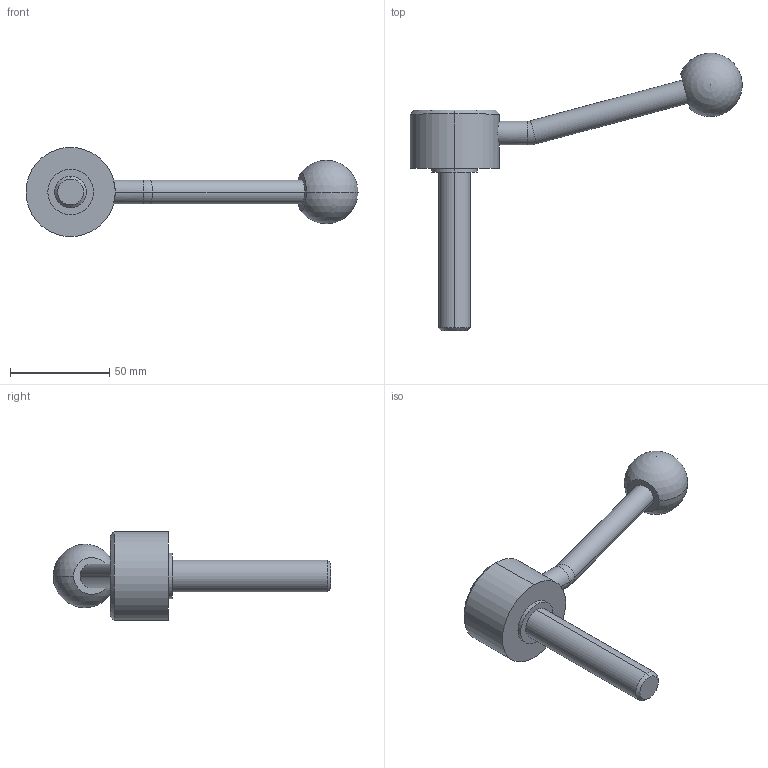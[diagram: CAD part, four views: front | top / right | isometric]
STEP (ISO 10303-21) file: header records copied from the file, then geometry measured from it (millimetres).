
FILE_DESCRIPTION (( 'STEP AP214' ), '1' );
FILE_NAME ('125.5-45-M16-80-E.step', '2020-02-18T11:44:29', ( '' ), ( '' ), 'SwSTEP 2.0', 'SolidWorks 2019', '' );
FILE_SCHEMA (( 'AUTOMOTIVE_DESIGN' ));
Length unit declared in the file: millimetre
Products named in the file (1): 125.5-45-M16-80-E
Bounding box: 167.44 x 139.99 x 45 mm (x, y, z)
Volume: 90870.3 mm3; surface area: 17893.5 mm2
Topology: 1 solids, 1 shells, 26 faces, 55 edges, 34 vertices
Faces by surface type: cylinder 12, plane 6, cone 4, torus 2, sphere 2
Entity records: 850 total; most frequent: CARTESIAN_POINT 192, DIRECTION 134, ORIENTED_EDGE 100, AXIS2_PLACEMENT_3D 59, EDGE_CURVE 50, CIRCLE 32, EDGE_LOOP 31, VERTEX_POINT 31
